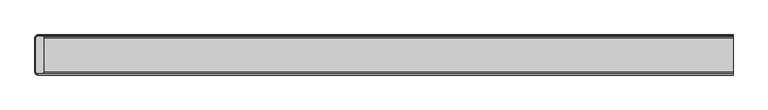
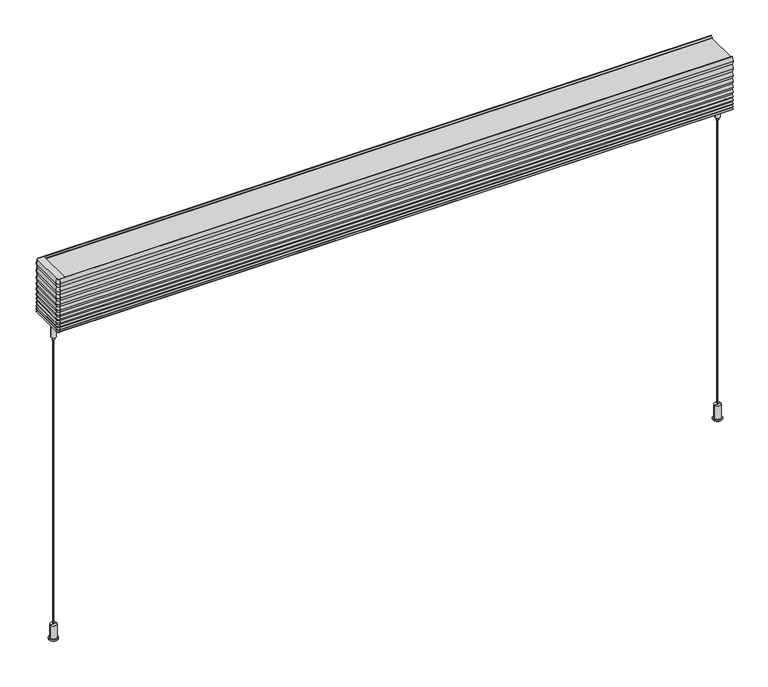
"""IFC4 building model written with IfcOpenShell, lengths in millimetres: light fixture geometry, Lighting-Pendant-Betacalco-Bellows-Straight : BLLC-DT1-SL04-LPF020-CR80-CTA40-DD1-FA01."""

from ifc_helpers import new_model, si_unit, point, frame, frame_2d, origin, place, context, project, spatial, polyline, circle_curve, trimmed, segment, composite_curve, outline, extrude, source, transform, mapped, element, save
from ifc_brep_helpers import plane_surface, cylinder_surface, revolved_surface, advanced_brep


def light_fixture_9107d4ee(model_context):
    return source(origin(), model_context, "Body", "SolidModel", [
        advanced_brep(
        [(-609.6, -35.1474913, 611.632), (-609.6, -33.3694913, 609.6), (-609.6, 33.3694913, 609.6), (-609.6, 35.1474913, 611.632), (-609.6, 33.3694913, 613.664), (-609.6, 35.1474913, 616.204), (-609.6, 33.3694913, 618.744), (-609.6, 35.1474913, 621.792), (-609.6, 33.3694913, 624.84), (-609.6, 35.1474913, 628.396), (-609.6, 33.3694913, 631.952), (-609.6, 35.1474913, 635.762), (-609.6, 33.3694913, 639.572), (-609.6, 35.11885, 644.0703509), (-609.6, 33.3966915, 648.6460566), (-609.6, 35.1239968, 653.7288728), (-609.6, 33.3919128, 658.8119386), (-609.6, 35.1278878, 664.402389), (-609.6, 33.3882749, 669.9929656), (-609.6, 35.1308966, 676.091104), (-609.6, 33.3848944, 682.1911894), (-609.6, 35.1351705, 689.3067168), (-609.6, 33.3815995, 696.4195673), (-609.6, 35.1359826, 703.786321), (-609.6, 33.3694913, 711.2), (-609.6, 32.6229178, 711.2), (-609.6, 32.6229178, 709.8332722), (-609.6, -32.6229178, 709.8332722), (-609.6, -32.6229178, 711.2), (-609.6, -33.3694913, 711.2), (-609.6, -35.1359826, 703.786321), (-609.6, -33.3815995, 696.4195673), (-609.6, -35.1351705, 689.3067168), (-609.6, -33.3848944, 682.1911894), (-609.6, -35.1308966, 676.091104), (-609.6, -33.3882749, 669.9929656), (-609.6, -35.1278878, 664.402389), (-609.6, -33.3919128, 658.8119386), (-609.6, -35.1239968, 653.7288728), (-609.6, -33.3966915, 648.6460566), (-609.6, -35.11885, 644.0703509), (-609.6, -33.3694913, 639.572), (-609.6, -35.1474913, 635.762), (-609.6, -33.3694913, 631.952), (-609.6, -35.1474913, 628.396), (-609.6, -33.3694913, 624.84), (-609.6, -35.1474913, 621.792), (-609.6, -33.3694913, 618.744), (-609.6, -35.1474913, 616.204), (-609.6, -33.3694913, 613.664), (-614.791, -29.9564913, 611.632), (-613.013, -29.9564913, 609.6), (-613.013, 29.9564913, 609.6), (-613.013, -29.9564913, 711.2), (-600.7807007, -32.5154703, 711.2), (-599.6222216, -31.4000598, 711.2), (-599.6222216, 31.4000598, 711.2), (-600.7807007, 32.5154703, 711.2), (-613.013, 29.9564913, 711.2), (-614.7794913, -29.9564913, 703.786321), (-613.0251082, -29.9564913, 696.4195673), (-614.7786792, -29.9564913, 689.3067168), (-613.0284031, -29.9564913, 682.1911894), (-614.7744054, -29.9564913, 676.091104), (-613.0317837, -29.9564913, 669.9929656), (-614.7713965, -29.9564913, 664.402389), (-613.0354215, -29.9564913, 658.8119386), (-614.7675055, -29.9564913, 653.7288728), (-613.0402002, -29.9564913, 648.6460566), (-614.7623587, -29.9564913, 644.0703509), (-613.013, -29.9564913, 639.572), (-614.791, -29.9564913, 635.762), (-613.013, -29.9564913, 631.952), (-614.791, -29.9564913, 628.396), (-613.013, -29.9564913, 624.84), (-614.791, -29.9564913, 621.792), (-613.013, -29.9564913, 618.744), (-614.791, -29.9564913, 616.204), (-613.013, -29.9564913, 613.664), (-614.791, 29.9564913, 611.632), (-614.7794913, 29.9564913, 703.786321), (-613.0251082, 29.9564913, 696.4195673), (-614.7786792, 29.9564913, 689.3067168), (-613.0284031, 29.9564913, 682.1911894), (-614.7744054, 29.9564913, 676.091104), (-613.0317837, 29.9564913, 669.9929656), (-614.7713965, 29.9564913, 664.402389), (-613.0354215, 29.9564913, 658.8119386), (-614.7675055, 29.9564913, 653.7288728), (-613.0402002, 29.9564913, 648.6460566), (-614.7623587, 29.9564913, 644.0703509), (-613.013, 29.9564913, 639.572), (-614.791, 29.9564913, 635.762), (-613.013, 29.9564913, 631.952), (-614.791, 29.9564913, 628.396), (-613.013, 29.9564913, 624.84), (-614.791, 29.9564913, 621.792), (-613.013, 29.9564913, 618.744), (-614.791, 29.9564913, 616.204), (-613.013, 29.9564913, 613.664), (-599.6222216, 31.4000598, 709.8332722), (-599.6222216, -31.4000598, 709.8332722), (-600.7807007, -32.5154703, 709.8332722), (-600.7807007, 32.5154703, 709.8332722)],
        [
            (0, 1),
            (1, 2),
            (2, 3),
            (3, 4),
            (4, 5),
            (5, 6),
            (6, 7),
            (7, 8),
            (8, 9),
            (9, 10),
            (10, 11),
            (11, 12),
            (12, 13),
            (13, 14),
            (14, 15),
            (15, 16),
            (16, 17),
            (17, 18),
            (18, 19),
            (19, 20),
            (20, 21),
            (21, 22),
            (22, 23),
            (23, 24),
            (24, 25),
            (25, 26),
            (26, 27),
            (27, 28),
            (28, 29),
            (29, 30),
            (30, 31),
            (31, 32),
            (32, 33),
            (33, 34),
            (34, 35),
            (35, 36),
            (36, 37),
            (37, 38),
            (38, 39),
            (39, 40),
            (40, 41),
            (41, 42),
            (42, 43),
            (43, 44),
            (44, 45),
            (45, 46),
            (46, 47),
            (47, 48),
            (48, 49),
            (49, 0),
            (0, 50, circle_curve(frame((-609.6, -29.9564913, 611.632), z_axis=(0.0, 0.0, -1.0), x_axis=(0.0, -1.0, 0.0)), 5.191)),
            (50, 51),
            (51, 1, circle_curve(frame((-609.6, -29.9564913, 609.6), z_axis=(0.0, 0.0, 1.0), x_axis=(0.0, -1.0, 0.0)), 3.413)),
            (51, 52),
            (52, 2, circle_curve(frame((-609.6, 29.9564913, 609.6), z_axis=(0.0, 0.0, -1.0), x_axis=(-1.0, 0.0, 0.0)), 3.413)),
            (53, 29, circle_curve(frame((-609.6, -29.9564913, 711.2), z_axis=(0.0, 0.0, 1.0), x_axis=(0.0, -1.0, 0.0)), 3.413)),
            (28, 54),
            (54, 55),
            (55, 56),
            (56, 57),
            (57, 25),
            (24, 58, circle_curve(frame((-609.6, 29.9564913, 711.2), z_axis=(0.0, 0.0, 1.0), x_axis=(-1.0, 0.0, 0.0)), 3.413)),
            (58, 53),
            (53, 59),
            (59, 30, circle_curve(frame((-609.6, -29.9564913, 703.786321), z_axis=(0.0, 0.0, 1.0), x_axis=(0.0, -1.0, 0.0)), 5.1794913)),
            (59, 60),
            (60, 31, circle_curve(frame((-609.6, -29.9564913, 696.4195673), z_axis=(0.0, 0.0, 1.0), x_axis=(0.0, -1.0, 0.0)), 3.4251082)),
            (60, 61),
            (61, 32, circle_curve(frame((-609.6, -29.9564913, 689.3067168), z_axis=(0.0, 0.0, 1.0), x_axis=(0.0, -1.0, 0.0)), 5.1786792)),
            (61, 62),
            (62, 33, circle_curve(frame((-609.6, -29.9564913, 682.1911894), z_axis=(0.0, 0.0, 1.0), x_axis=(0.0, -1.0, 0.0)), 3.4284031)),
            (62, 63),
            (63, 34, circle_curve(frame((-609.6, -29.9564913, 676.091104), z_axis=(0.0, 0.0, 1.0), x_axis=(0.0, -1.0, 0.0)), 5.1744054)),
            (63, 64),
            (64, 35, circle_curve(frame((-609.6, -29.9564913, 669.9929656), z_axis=(0.0, 0.0, 1.0), x_axis=(0.0, -1.0, 0.0)), 3.4317837)),
            (64, 65),
            (65, 36, circle_curve(frame((-609.6, -29.9564913, 664.402389), z_axis=(0.0, 0.0, 1.0), x_axis=(0.0, -1.0, 0.0)), 5.1713965)),
            (65, 66),
            (66, 37, circle_curve(frame((-609.6, -29.9564913, 658.8119386), z_axis=(0.0, 0.0, 1.0), x_axis=(0.0, -1.0, 0.0)), 3.4354215)),
            (66, 67),
            (67, 38, circle_curve(frame((-609.6, -29.9564913, 653.7288728), z_axis=(0.0, 0.0, 1.0), x_axis=(0.0, -1.0, 0.0)), 5.1675055)),
            (67, 68),
            (68, 39, circle_curve(frame((-609.6, -29.9564913, 648.6460566), z_axis=(0.0, 0.0, 1.0), x_axis=(0.0, -1.0, 0.0)), 3.4402002)),
            (68, 69),
            (69, 40, circle_curve(frame((-609.6, -29.9564913, 644.0703509), z_axis=(0.0, 0.0, 1.0), x_axis=(0.0, -1.0, 0.0)), 5.1623587)),
            (69, 70),
            (70, 41, circle_curve(frame((-609.6, -29.9564913, 639.572), z_axis=(0.0, 0.0, 1.0), x_axis=(0.0, -1.0, 0.0)), 3.413)),
            (70, 71),
            (71, 42, circle_curve(frame((-609.6, -29.9564913, 635.762), z_axis=(0.0, 0.0, 1.0), x_axis=(0.0, -1.0, 0.0)), 5.191)),
            (71, 72),
            (72, 43, circle_curve(frame((-609.6, -29.9564913, 631.952), z_axis=(0.0, 0.0, 1.0), x_axis=(0.0, -1.0, 0.0)), 3.413)),
            (72, 73),
            (73, 44, circle_curve(frame((-609.6, -29.9564913, 628.396), z_axis=(0.0, 0.0, 1.0), x_axis=(0.0, -1.0, 0.0)), 5.191)),
            (73, 74),
            (74, 45, circle_curve(frame((-609.6, -29.9564913, 624.84), z_axis=(0.0, 0.0, 1.0), x_axis=(0.0, -1.0, 0.0)), 3.413)),
            (74, 75),
            (75, 46, circle_curve(frame((-609.6, -29.9564913, 621.792), z_axis=(0.0, 0.0, 1.0), x_axis=(0.0, -1.0, 0.0)), 5.191)),
            (75, 76),
            (76, 47, circle_curve(frame((-609.6, -29.9564913, 618.744), z_axis=(0.0, 0.0, 1.0), x_axis=(0.0, -1.0, 0.0)), 3.413)),
            (76, 77),
            (77, 48, circle_curve(frame((-609.6, -29.9564913, 616.204), z_axis=(0.0, 0.0, 1.0), x_axis=(0.0, -1.0, 0.0)), 5.191)),
            (77, 78),
            (78, 49, circle_curve(frame((-609.6, -29.9564913, 613.664), z_axis=(0.0, 0.0, 1.0), x_axis=(0.0, -1.0, 0.0)), 3.413)),
            (78, 50),
            (50, 79),
            (79, 52),
            (58, 80),
            (80, 59),
            (80, 81),
            (81, 60),
            (81, 82),
            (82, 61),
            (82, 83),
            (83, 62),
            (83, 84),
            (84, 63),
            (84, 85),
            (85, 64),
            (85, 86),
            (86, 65),
            (86, 87),
            (87, 66),
            (87, 88),
            (88, 67),
            (88, 89),
            (89, 68),
            (89, 90),
            (90, 69),
            (90, 91),
            (91, 70),
            (91, 92),
            (92, 71),
            (92, 93),
            (93, 72),
            (93, 94),
            (94, 73),
            (94, 95),
            (95, 74),
            (95, 96),
            (96, 75),
            (96, 97),
            (97, 76),
            (97, 98),
            (98, 77),
            (98, 99),
            (99, 78),
            (99, 79),
            (100, 101),
            (101, 102),
            (102, 27),
            (26, 103),
            (103, 100),
            (56, 100),
            (103, 57),
            (102, 54),
            (101, 55),
            (79, 3, circle_curve(frame((-609.6, 29.9564913, 611.632), z_axis=(0.0, 0.0, -1.0), x_axis=(-1.0, 0.0, 0.0)), 5.191)),
            (23, 80, circle_curve(frame((-609.6, 29.9564913, 703.786321), z_axis=(0.0, 0.0, 1.0), x_axis=(-1.0, 0.0, 0.0)), 5.1794913)),
            (22, 81, circle_curve(frame((-609.6, 29.9564913, 696.4195673), z_axis=(0.0, 0.0, 1.0), x_axis=(-1.0, 0.0, 0.0)), 3.4251082)),
            (21, 82, circle_curve(frame((-609.6, 29.9564913, 689.3067168), z_axis=(0.0, 0.0, 1.0), x_axis=(-1.0, 0.0, 0.0)), 5.1786792)),
            (20, 83, circle_curve(frame((-609.6, 29.9564913, 682.1911894), z_axis=(0.0, 0.0, 1.0), x_axis=(-1.0, 0.0, 0.0)), 3.4284031)),
            (19, 84, circle_curve(frame((-609.6, 29.9564913, 676.091104), z_axis=(0.0, 0.0, 1.0), x_axis=(-1.0, 0.0, 0.0)), 5.1744054)),
            (18, 85, circle_curve(frame((-609.6, 29.9564913, 669.9929656), z_axis=(0.0, 0.0, 1.0), x_axis=(-1.0, 0.0, 0.0)), 3.4317837)),
            (17, 86, circle_curve(frame((-609.6, 29.9564913, 664.402389), z_axis=(0.0, 0.0, 1.0), x_axis=(-1.0, 0.0, 0.0)), 5.1713965)),
            (16, 87, circle_curve(frame((-609.6, 29.9564913, 658.8119386), z_axis=(0.0, 0.0, 1.0), x_axis=(-1.0, 0.0, 0.0)), 3.4354215)),
            (15, 88, circle_curve(frame((-609.6, 29.9564913, 653.7288728), z_axis=(0.0, 0.0, 1.0), x_axis=(-1.0, 0.0, 0.0)), 5.1675055)),
            (14, 89, circle_curve(frame((-609.6, 29.9564913, 648.6460566), z_axis=(0.0, 0.0, 1.0), x_axis=(-1.0, 0.0, 0.0)), 3.4402002)),
            (13, 90, circle_curve(frame((-609.6, 29.9564913, 644.0703509), z_axis=(0.0, 0.0, 1.0), x_axis=(-1.0, 0.0, 0.0)), 5.1623587)),
            (12, 91, circle_curve(frame((-609.6, 29.9564913, 639.572), z_axis=(0.0, 0.0, 1.0), x_axis=(-1.0, 0.0, 0.0)), 3.413)),
            (11, 92, circle_curve(frame((-609.6, 29.9564913, 635.762), z_axis=(0.0, 0.0, 1.0), x_axis=(-1.0, 0.0, 0.0)), 5.191)),
            (10, 93, circle_curve(frame((-609.6, 29.9564913, 631.952), z_axis=(0.0, 0.0, 1.0), x_axis=(-1.0, 0.0, 0.0)), 3.413)),
            (9, 94, circle_curve(frame((-609.6, 29.9564913, 628.396), z_axis=(0.0, 0.0, 1.0), x_axis=(-1.0, 0.0, 0.0)), 5.191)),
            (8, 95, circle_curve(frame((-609.6, 29.9564913, 624.84), z_axis=(0.0, 0.0, 1.0), x_axis=(-1.0, 0.0, 0.0)), 3.413)),
            (7, 96, circle_curve(frame((-609.6, 29.9564913, 621.792), z_axis=(0.0, 0.0, 1.0), x_axis=(-1.0, 0.0, 0.0)), 5.191)),
            (6, 97, circle_curve(frame((-609.6, 29.9564913, 618.744), z_axis=(0.0, 0.0, 1.0), x_axis=(-1.0, 0.0, 0.0)), 3.413)),
            (5, 98, circle_curve(frame((-609.6, 29.9564913, 616.204), z_axis=(0.0, 0.0, 1.0), x_axis=(-1.0, 0.0, 0.0)), 5.191)),
            (4, 99, circle_curve(frame((-609.6, 29.9564913, 613.664), z_axis=(0.0, 0.0, 1.0), x_axis=(-1.0, 0.0, 0.0)), 3.413)),
        ],
        [
            plane_surface(frame((-609.6, -35.3935941, 609.6), z_axis=(1.0, 0.0, 0.0), x_axis=(0.0, 0.0, 1.0))),
            revolved_surface(polyline([(-609.6, -35.1474913, 611.632), (-609.6, -33.3694913, 609.6)]), (-609.6, -29.9564913, 609.6), (0.0, 0.0, -1.0)),
            plane_surface(frame((-609.6, -29.9564913, 609.6), z_axis=(0.0, 0.0, -1.0), x_axis=(0.0, -1.0, 0.0))),
            plane_surface(frame((-609.6, -29.9564913, 711.2), z_axis=(0.0, 0.0, 1.0), x_axis=(0.0, -1.0, 0.0))),
            revolved_surface(polyline([(-609.6, -33.3694913, 711.2), (-609.6, -35.1359826, 703.786321)]), (-609.6, -29.9564913, 609.6), (0.0, 0.0, -1.0)),
            revolved_surface(polyline([(-609.6, -35.1359826, 703.786321), (-609.6, -33.3815995, 696.4195673)]), (-609.6, -29.9564913, 609.6), (0.0, 0.0, -1.0)),
            revolved_surface(polyline([(-609.6, -33.3815995, 696.4195673), (-609.6, -35.1351705, 689.3067168)]), (-609.6, -29.9564913, 609.6), (0.0, 0.0, -1.0)),
            revolved_surface(polyline([(-609.6, -35.1351705, 689.3067168), (-609.6, -33.3848944, 682.1911894)]), (-609.6, -29.9564913, 609.6), (0.0, 0.0, -1.0)),
            revolved_surface(polyline([(-609.6, -33.3848944, 682.1911894), (-609.6, -35.1308966, 676.091104)]), (-609.6, -29.9564913, 609.6), (0.0, 0.0, -1.0)),
            revolved_surface(polyline([(-609.6, -35.1308966, 676.091104), (-609.6, -33.3882749, 669.9929656)]), (-609.6, -29.9564913, 609.6), (0.0, 0.0, -1.0)),
            revolved_surface(polyline([(-609.6, -33.3882749, 669.9929656), (-609.6, -35.1278878, 664.402389)]), (-609.6, -29.9564913, 609.6), (0.0, 0.0, -1.0)),
            revolved_surface(polyline([(-609.6, -35.1278878, 664.402389), (-609.6, -33.3919128, 658.8119386)]), (-609.6, -29.9564913, 609.6), (0.0, 0.0, -1.0)),
            revolved_surface(polyline([(-609.6, -33.3919128, 658.8119386), (-609.6, -35.1239968, 653.7288728)]), (-609.6, -29.9564913, 609.6), (0.0, 0.0, -1.0)),
            revolved_surface(polyline([(-609.6, -35.1239968, 653.7288728), (-609.6, -33.3966915, 648.6460566)]), (-609.6, -29.9564913, 609.6), (0.0, 0.0, -1.0)),
            revolved_surface(polyline([(-609.6, -33.3966915, 648.6460566), (-609.6, -35.11885, 644.0703509)]), (-609.6, -29.9564913, 609.6), (0.0, 0.0, -1.0)),
            revolved_surface(polyline([(-609.6, -35.11885, 644.0703509), (-609.6, -33.3694913, 639.572)]), (-609.6, -29.9564913, 609.6), (0.0, 0.0, -1.0)),
            revolved_surface(polyline([(-609.6, -33.3694913, 639.572), (-609.6, -35.1474913, 635.762)]), (-609.6, -29.9564913, 609.6), (0.0, 0.0, -1.0)),
            revolved_surface(polyline([(-609.6, -35.1474913, 635.762), (-609.6, -33.3694913, 631.952)]), (-609.6, -29.9564913, 609.6), (0.0, 0.0, -1.0)),
            revolved_surface(polyline([(-609.6, -33.3694913, 631.952), (-609.6, -35.1474913, 628.396)]), (-609.6, -29.9564913, 609.6), (0.0, 0.0, -1.0)),
            revolved_surface(polyline([(-609.6, -35.1474913, 628.396), (-609.6, -33.3694913, 624.84)]), (-609.6, -29.9564913, 609.6), (0.0, 0.0, -1.0)),
            revolved_surface(polyline([(-609.6, -33.3694913, 624.84), (-609.6, -35.1474913, 621.792)]), (-609.6, -29.9564913, 609.6), (0.0, 0.0, -1.0)),
            revolved_surface(polyline([(-609.6, -35.1474913, 621.792), (-609.6, -33.3694913, 618.744)]), (-609.6, -29.9564913, 609.6), (0.0, 0.0, -1.0)),
            revolved_surface(polyline([(-609.6, -33.3694913, 618.744), (-609.6, -35.1474913, 616.204)]), (-609.6, -29.9564913, 609.6), (0.0, 0.0, -1.0)),
            revolved_surface(polyline([(-609.6, -35.1474913, 616.204), (-609.6, -33.3694913, 613.664)]), (-609.6, -29.9564913, 609.6), (0.0, 0.0, -1.0)),
            revolved_surface(polyline([(-609.6, -33.3694913, 613.664), (-609.6, -35.1474913, 611.632)]), (-609.6, -29.9564913, 609.6), (0.0, 0.0, -1.0)),
            plane_surface(frame((-614.791, -29.9564913, 611.632), z_axis=(-0.7525766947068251, 0.0, -0.6585046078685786), x_axis=(0.0, 1.0, 0.0))),
            plane_surface(frame((-613.013, -29.9564913, 711.2), z_axis=(-0.9727668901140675, 0.0, 0.23178562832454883), x_axis=(0.0, 1.0, 0.0))),
            plane_surface(frame((-614.7794913, -29.9564913, 703.786321), z_axis=(-0.9727944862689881, 0.0, -0.23166978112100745), x_axis=(0.0, 1.0, 0.0))),
            plane_surface(frame((-613.0251082, -29.9564913, 696.4195673), z_axis=(-0.9709287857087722, 0.0, 0.23936852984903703), x_axis=(0.0, 1.0, 0.0))),
            plane_surface(frame((-614.7786792, -29.9564913, 689.3067168), z_axis=(-0.9710540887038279, 0.0, -0.23885970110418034), x_axis=(0.0, 1.0, 0.0))),
            plane_surface(frame((-613.0284031, -29.9564913, 682.1911894), z_axis=(-0.9613939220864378, 0.0, 0.27517581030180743), x_axis=(0.0, 1.0, 0.0))),
            plane_surface(frame((-614.7744054, -29.9564913, 676.091104), z_axis=(-0.9615116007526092, 0.0, -0.2747643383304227), x_axis=(0.0, 1.0, 0.0))),
            plane_surface(frame((-613.0317837, -29.9564913, 669.9929656), z_axis=(-0.9548411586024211, 0.0, 0.29711674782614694), x_axis=(0.0, 1.0, 0.0))),
            plane_surface(frame((-614.7713965, -29.9564913, 664.402389), z_axis=(-0.9550153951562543, 0.0, -0.29655622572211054), x_axis=(0.0, 1.0, 0.0))),
            plane_surface(frame((-613.0354215, -29.9564913, 658.8119386), z_axis=(-0.9465545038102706, 0.0, 0.3225439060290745), x_axis=(0.0, 1.0, 0.0))),
            plane_surface(frame((-614.7675055, -29.9564913, 653.7288728), z_axis=(-0.9468211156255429, 0.0, -0.3217604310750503), x_axis=(0.0, 1.0, 0.0))),
            plane_surface(frame((-613.0402002, -29.9564913, 648.6460566), z_axis=(-0.9359069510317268, 0.0, 0.3522473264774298), x_axis=(0.0, 1.0, 0.0))),
            plane_surface(frame((-614.7623587, -29.9564913, 644.0703509), z_axis=(-0.9320046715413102, 0.0, -0.36244626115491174), x_axis=(0.0, 1.0, 0.0))),
            plane_surface(frame((-613.013, -29.9564913, 639.572), z_axis=(-0.9061831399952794, 0.0, 0.42288546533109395), x_axis=(0.0, 1.0, 0.0))),
            plane_surface(frame((-614.791, -29.9564913, 635.762), z_axis=(-0.9061831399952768, 0.0, -0.42288546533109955), x_axis=(0.0, 1.0, 0.0))),
            plane_surface(frame((-613.013, -29.9564913, 631.952), z_axis=(-0.8944271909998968, 0.0, 0.4472135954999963), x_axis=(0.0, 1.0, 0.0))),
            plane_surface(frame((-614.791, -29.9564913, 628.396), z_axis=(-0.8944271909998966, 0.0, -0.44721359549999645), x_axis=(0.0, 1.0, 0.0))),
            plane_surface(frame((-613.013, -29.9564913, 624.84), z_axis=(-0.8637789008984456, 0.0, 0.5038710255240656), x_axis=(0.0, 1.0, 0.0))),
            plane_surface(frame((-614.791, -29.9564913, 621.792), z_axis=(-0.8637789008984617, 0.0, -0.503871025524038), x_axis=(0.0, 1.0, 0.0))),
            plane_surface(frame((-613.013, -29.9564913, 618.744), z_axis=(-0.8192319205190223, 0.0, 0.5734623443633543), x_axis=(0.0, 1.0, 0.0))),
            plane_surface(frame((-614.791, -29.9564913, 616.204), z_axis=(-0.8192319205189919, 0.0, -0.5734623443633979), x_axis=(0.0, 1.0, 0.0))),
            plane_surface(frame((-613.013, -29.9564913, 613.664), z_axis=(-0.7525766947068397, 0.0, 0.6585046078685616), x_axis=(0.0, 1.0, 0.0))),
            plane_surface(frame((-599.6222216, 31.4000598, 709.8332722), z_axis=(0.0, 0.0, -1.0), x_axis=(0.7203705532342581, -0.6935894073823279, 0.0))),
            plane_surface(frame((-599.6222216, 31.4000598, 711.2), z_axis=(0.6935894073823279, 0.7203705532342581, 0.0), x_axis=(0.0, 0.0, -1.0))),
            plane_surface(frame((-600.7807007, 32.5154703, 711.2), z_axis=(0.012182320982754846, 0.9999257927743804, 0.0), x_axis=(0.0, 0.0, -1.0))),
            plane_surface(frame((-609.6, -32.6229178, 711.2), z_axis=(0.012182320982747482, -0.9999257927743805, 0.0), x_axis=(0.0, 0.0, -1.0))),
            plane_surface(frame((-600.7807007, -32.5154703, 711.2), z_axis=(0.6935894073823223, -0.7203705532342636, 0.0), x_axis=(0.0, 0.0, -1.0))),
            plane_surface(frame((-599.6222216, -31.4000598, 711.2), z_axis=(1.0, 0.0, 0.0), x_axis=(0.0, 0.0, -1.0))),
            revolved_surface(polyline([(-614.791, 29.9564913, 611.632), (-613.013, 29.9564913, 609.6)]), (-609.6, 29.9564913, 609.6), (0.0, 0.0, -1.0)),
            revolved_surface(polyline([(-613.013, 29.9564913, 711.2), (-614.7794913, 29.9564913, 703.786321)]), (-609.6, 29.9564913, 609.6), (0.0, 0.0, -1.0)),
            revolved_surface(polyline([(-614.7794913, 29.9564913, 703.786321), (-613.0251082, 29.9564913, 696.4195673)]), (-609.6, 29.9564913, 609.6), (0.0, 0.0, -1.0)),
            revolved_surface(polyline([(-613.0251082, 29.9564913, 696.4195673), (-614.7786792, 29.9564913, 689.3067168)]), (-609.6, 29.9564913, 609.6), (0.0, 0.0, -1.0)),
            revolved_surface(polyline([(-614.7786792, 29.9564913, 689.3067168), (-613.0284031, 29.9564913, 682.1911894)]), (-609.6, 29.9564913, 609.6), (0.0, 0.0, -1.0)),
            revolved_surface(polyline([(-613.0284031, 29.9564913, 682.1911894), (-614.7744054, 29.9564913, 676.091104)]), (-609.6, 29.9564913, 609.6), (0.0, 0.0, -1.0)),
            revolved_surface(polyline([(-614.7744054, 29.9564913, 676.091104), (-613.0317837, 29.9564913, 669.9929656)]), (-609.6, 29.9564913, 609.6), (0.0, 0.0, -1.0)),
            revolved_surface(polyline([(-613.0317837, 29.9564913, 669.9929656), (-614.7713965, 29.9564913, 664.402389)]), (-609.6, 29.9564913, 609.6), (0.0, 0.0, -1.0)),
            revolved_surface(polyline([(-614.7713965, 29.9564913, 664.402389), (-613.0354215, 29.9564913, 658.8119386)]), (-609.6, 29.9564913, 609.6), (0.0, 0.0, -1.0)),
            revolved_surface(polyline([(-613.0354215, 29.9564913, 658.8119386), (-614.7675055, 29.9564913, 653.7288728)]), (-609.6, 29.9564913, 609.6), (0.0, 0.0, -1.0)),
            revolved_surface(polyline([(-614.7675055, 29.9564913, 653.7288728), (-613.0402002, 29.9564913, 648.6460566)]), (-609.6, 29.9564913, 609.6), (0.0, 0.0, -1.0)),
            revolved_surface(polyline([(-613.0402002, 29.9564913, 648.6460566), (-614.7623587, 29.9564913, 644.0703509)]), (-609.6, 29.9564913, 609.6), (0.0, 0.0, -1.0)),
            revolved_surface(polyline([(-614.7623587, 29.9564913, 644.0703509), (-613.013, 29.9564913, 639.572)]), (-609.6, 29.9564913, 609.6), (0.0, 0.0, -1.0)),
            revolved_surface(polyline([(-613.013, 29.9564913, 639.572), (-614.791, 29.9564913, 635.762)]), (-609.6, 29.9564913, 609.6), (0.0, 0.0, -1.0)),
            revolved_surface(polyline([(-614.791, 29.9564913, 635.762), (-613.013, 29.9564913, 631.952)]), (-609.6, 29.9564913, 609.6), (0.0, 0.0, -1.0)),
            revolved_surface(polyline([(-613.013, 29.9564913, 631.952), (-614.791, 29.9564913, 628.396)]), (-609.6, 29.9564913, 609.6), (0.0, 0.0, -1.0)),
            revolved_surface(polyline([(-614.791, 29.9564913, 628.396), (-613.013, 29.9564913, 624.84)]), (-609.6, 29.9564913, 609.6), (0.0, 0.0, -1.0)),
            revolved_surface(polyline([(-613.013, 29.9564913, 624.84), (-614.791, 29.9564913, 621.792)]), (-609.6, 29.9564913, 609.6), (0.0, 0.0, -1.0)),
            revolved_surface(polyline([(-614.791, 29.9564913, 621.792), (-613.013, 29.9564913, 618.744)]), (-609.6, 29.9564913, 609.6), (0.0, 0.0, -1.0)),
            revolved_surface(polyline([(-613.013, 29.9564913, 618.744), (-614.791, 29.9564913, 616.204)]), (-609.6, 29.9564913, 609.6), (0.0, 0.0, -1.0)),
            revolved_surface(polyline([(-614.791, 29.9564913, 616.204), (-613.013, 29.9564913, 613.664)]), (-609.6, 29.9564913, 609.6), (0.0, 0.0, -1.0)),
            revolved_surface(polyline([(-613.013, 29.9564913, 613.664), (-614.791, 29.9564913, 611.632)]), (-609.6, 29.9564913, 609.6), (0.0, 0.0, -1.0)),
        ],
        [
            (0, [[1, 2, 3, 4, 5, 6, 7, 8, 9, 10, 11, 12, 13, 14, 15, 16, 17, 18, 19, 20, 21, 22, 23, 24, 25, 26, 27, 28, 29, 30, 31, 32, 33, 34, 35, 36, 37, 38, 39, 40, 41, 42, 43, 44, 45, 46, 47, 48, 49, 50]]),
            (1, [[-1, 51, 52, 53]]),
            (2, [[-2, -53, 54, 55]]),
            (3, [[56, -29, 57, 58, 59, 60, 61, -25, 62, 63]]),
            (4, [[-30, -56, 64, 65]]),
            (5, [[-31, -65, 66, 67]]),
            (6, [[-32, -67, 68, 69]]),
            (7, [[-33, -69, 70, 71]]),
            (8, [[-34, -71, 72, 73]]),
            (9, [[-35, -73, 74, 75]]),
            (10, [[-36, -75, 76, 77]]),
            (11, [[-37, -77, 78, 79]]),
            (12, [[-38, -79, 80, 81]]),
            (13, [[-39, -81, 82, 83]]),
            (14, [[-40, -83, 84, 85]]),
            (15, [[-41, -85, 86, 87]]),
            (16, [[-42, -87, 88, 89]]),
            (17, [[-43, -89, 90, 91]]),
            (18, [[-44, -91, 92, 93]]),
            (19, [[-45, -93, 94, 95]]),
            (20, [[-46, -95, 96, 97]]),
            (21, [[-47, -97, 98, 99]]),
            (22, [[-48, -99, 100, 101]]),
            (23, [[-49, -101, 102, 103]]),
            (24, [[-50, -103, 104, -51]]),
            (25, [[-52, 105, 106, -54]]),
            (26, [[-63, 107, 108, -64]]),
            (27, [[-66, -108, 109, 110]]),
            (28, [[-68, -110, 111, 112]]),
            (29, [[-70, -112, 113, 114]]),
            (30, [[-72, -114, 115, 116]]),
            (31, [[-74, -116, 117, 118]]),
            (32, [[-76, -118, 119, 120]]),
            (33, [[-78, -120, 121, 122]]),
            (34, [[-80, -122, 123, 124]]),
            (35, [[-82, -124, 125, 126]]),
            (36, [[-84, -126, 127, 128]]),
            (37, [[-86, -128, 129, 130]]),
            (38, [[-88, -130, 131, 132]]),
            (39, [[-90, -132, 133, 134]]),
            (40, [[-92, -134, 135, 136]]),
            (41, [[-94, -136, 137, 138]]),
            (42, [[-96, -138, 139, 140]]),
            (43, [[-98, -140, 141, 142]]),
            (44, [[-100, -142, 143, 144]]),
            (45, [[-102, -144, 145, 146]]),
            (46, [[-104, -146, 147, -105]]),
            (47, [[148, 149, 150, -27, 151, 152]]),
            (48, [[-60, 153, -152, 154]]),
            (49, [[-61, -154, -151, -26]]),
            (50, [[-57, -28, -150, 155]]),
            (51, [[-58, -155, -149, 156]]),
            (52, [[-59, -156, -148, -153]]),
            (53, [[-55, -106, 157, -3]]),
            (54, [[-62, -24, 158, -107]]),
            (55, [[-109, -158, -23, 159]]),
            (56, [[-111, -159, -22, 160]]),
            (57, [[-113, -160, -21, 161]]),
            (58, [[-115, -161, -20, 162]]),
            (59, [[-117, -162, -19, 163]]),
            (60, [[-119, -163, -18, 164]]),
            (61, [[-121, -164, -17, 165]]),
            (62, [[-123, -165, -16, 166]]),
            (63, [[-125, -166, -15, 167]]),
            (64, [[-127, -167, -14, 168]]),
            (65, [[-129, -168, -13, 169]]),
            (66, [[-131, -169, -12, 170]]),
            (67, [[-133, -170, -11, 171]]),
            (68, [[-135, -171, -10, 172]]),
            (69, [[-137, -172, -9, 173]]),
            (70, [[-139, -173, -8, 174]]),
            (71, [[-141, -174, -7, 175]]),
            (72, [[-143, -175, -6, 176]]),
            (73, [[-145, -176, -5, 177]]),
            (74, [[-147, -177, -4, -157]]),
        ],
    ),
        extrude(outline(composite_curve([segment(trimmed(circle_curve(frame_2d((9.7634085, 617.6899758)), 3.0000001), [point((12.4477579, 616.3504727))], [point((10.5526102, 614.7956432))], False, "CARTESIAN"), True, "CONTINUOUS"), segment(trimmed(circle_curve(frame_2d((0.0, 653.4964752)), 40.113738), [point((10.5526102, 614.7956432))], [point((-10.5526102, 614.7956432))], False, "CARTESIAN"), True, "CONTINUOUS"), segment(trimmed(circle_curve(frame_2d((-9.7634085, 617.6899758)), 3.0000001), [point((-10.5526102, 614.7956432))], [point((-12.4477579, 616.3504727))], False, "CARTESIAN"), True, "CONTINUOUS"), segment(polyline([(-12.4477579, 616.3504727), (-13.0732308, 617.6039135), (13.0732308, 617.6039135), (12.4477579, 616.3504727)]), True, "CONTINUOUS")], self_intersect=False)), frame((-575.31, 0.0, 0.0), z_axis=(1.0, 0.0, 0.0), x_axis=(0.0, 1.0, 0.0)), (0.0, 0.0, 1.0), 1150.62),
        extrude(outline(polyline([(609.6, 30.1625), (609.6, -30.1625), (593.725, -30.1625), (593.725, 30.1625), (609.6, 30.1625)])), frame((0.0, 0.0, 612.648), z_axis=(0.0, 0.0, 1.0), x_axis=(1.0, 0.0, 0.0)), (0.0, 0.0, 1.0), 1.524),
        advanced_brep(
        [(609.6625, 0.0, 0.0), (593.6625, 0.0, 0.0), (593.6625, 0.0, 2.05), (609.6625, 0.0, 2.05), (595.6625, 0.0, 2.05), (607.6625, 0.0, 2.05), (595.6625, 0.0, 27.4), (607.6625, 0.0, 27.4), (601.6625, 0.0, 27.4), (601.6625, 0.0, 0.0)],
        [
            (0, 1, circle_curve(frame((601.6625, 0.0, 0.0), z_axis=(0.0, 0.0, 1.0), x_axis=(-1.0, 0.0, 0.0)), 8.0)),
            (1, 2),
            (2, 3, circle_curve(frame((601.6625, 0.0, 2.05), z_axis=(0.0, 0.0, -1.0), x_axis=(-1.0, 0.0, 0.0)), 8.0)),
            (3, 0),
            (1, 0, circle_curve(frame((601.6625, 0.0, 0.0), z_axis=(0.0, 0.0, 1.0), x_axis=(-1.0, 0.0, 0.0)), 8.0)),
            (3, 2, circle_curve(frame((601.6625, 0.0, 2.05), z_axis=(0.0, 0.0, -1.0), x_axis=(-1.0, 0.0, 0.0)), 8.0)),
            (2, 4),
            (4, 5, circle_curve(frame((601.6625, 0.0, 2.05), z_axis=(0.0, 0.0, -1.0), x_axis=(-1.0, 0.0, 0.0)), 6.0)),
            (5, 3),
            (5, 4, circle_curve(frame((601.6625, 0.0, 2.05), z_axis=(0.0, 0.0, -1.0), x_axis=(-1.0, 0.0, 0.0)), 6.0)),
            (4, 6),
            (6, 7, circle_curve(frame((601.6625, 0.0, 27.4), z_axis=(0.0, 0.0, -1.0), x_axis=(-1.0, 0.0, 0.0)), 6.0)),
            (7, 5),
            (7, 6, circle_curve(frame((601.6625, 0.0, 27.4), z_axis=(0.0, 0.0, -1.0), x_axis=(-1.0, 0.0, 0.0)), 6.0)),
            (6, 8),
            (8, 7),
            (9, 1),
            (0, 9),
        ],
        [
            cylinder_surface(frame((601.6625, 0.0, 2366.7150031), z_axis=(0.0, 0.0, -1.0), x_axis=(-1.0, 0.0, 0.0)), 8.0),
            plane_surface(frame((601.6625, 0.0, 2.05), z_axis=(0.0, 0.0, 1.0), x_axis=(-1.0, 0.0, 0.0))),
            cylinder_surface(frame((601.6625, 0.0, 2366.7150031), z_axis=(0.0, 0.0, -1.0), x_axis=(-1.0, 0.0, 0.0)), 6.0),
            plane_surface(frame((601.6625, 0.0, 27.4), z_axis=(0.0, 0.0, 1.0), x_axis=(-1.0, 0.0, 0.0))),
            plane_surface(frame((601.6625, 0.0, 0.0), z_axis=(0.0, 0.0, -1.0), x_axis=(-1.0, 0.0, 0.0))),
        ],
        [
            (0, [[1, 2, 3, 4]]),
            (0, [[5, -4, 6, -2]]),
            (1, [[-3, 7, 8, 9]]),
            (1, [[-6, -9, 10, -7]]),
            (2, [[-8, 11, 12, 13]]),
            (2, [[-10, -13, 14, -11]]),
            (3, [[-12, 15, 16]]),
            (3, [[-14, -16, -15]]),
            (4, [[17, -1, 18]]),
            (4, [[-18, -5, -17]]),
        ],
    ),
        advanced_brep(
        [(602.4562476, 0.0, 27.4), (600.8687524, 0.0, 27.4), (600.8687524, 0.0, 572.93256), (602.4562476, 0.0, 572.93256), (601.6625, 0.0, 27.4), (601.6625, 0.0, 572.93256)],
        [
            (0, 1, circle_curve(frame((601.6625, 0.0, 27.4), z_axis=(0.0, 0.0, 1.0), x_axis=(-1.0, 0.0, 0.0)), 0.7937476)),
            (1, 2),
            (2, 3, circle_curve(frame((601.6625, 0.0, 572.93256), z_axis=(0.0, 0.0, -1.0), x_axis=(-1.0, 0.0, 0.0)), 0.7937476)),
            (3, 0),
            (1, 0, circle_curve(frame((601.6625, 0.0, 27.4), z_axis=(0.0, 0.0, 1.0), x_axis=(-1.0, 0.0, 0.0)), 0.7937476)),
            (3, 2, circle_curve(frame((601.6625, 0.0, 572.93256), z_axis=(0.0, 0.0, -1.0), x_axis=(-1.0, 0.0, 0.0)), 0.7937476)),
            (4, 1),
            (0, 4),
            (2, 5),
            (5, 3),
        ],
        [
            cylinder_surface(frame((601.6625, 0.0, 2366.7150031), z_axis=(0.0, 0.0, -1.0), x_axis=(-1.0, 0.0, 0.0)), 0.7937476),
            plane_surface(frame((601.6625, 0.0, 27.4), z_axis=(0.0, 0.0, -1.0), x_axis=(-1.0, 0.0, 0.0))),
            plane_surface(frame((601.6625, 0.0, 572.93256), z_axis=(0.0, 0.0, 1.0), x_axis=(-1.0, 0.0, 0.0))),
        ],
        [
            (0, [[1, 2, 3, 4]]),
            (0, [[5, -4, 6, -2]]),
            (1, [[7, -1, 8]]),
            (1, [[-8, -5, -7]]),
            (2, [[-3, 9, 10]]),
            (2, [[-6, -10, -9]]),
        ],
    ),
        advanced_brep(
        [(606.1329, 0.0, 578.64756), (597.1921, 0.0, 578.64756), (597.1921, 0.0, 612.648), (606.1329, 0.0, 612.648), (603.5929, 0.0, 578.64756), (599.7321, 0.0, 578.64756), (603.5929, 0.0, 572.93256), (599.7321, 0.0, 572.93256), (601.6625, 0.0, 572.93256), (601.6625, 0.0, 612.648)],
        [
            (0, 1, circle_curve(frame((601.6625, 0.0, 578.64756), z_axis=(0.0, 0.0, 1.0), x_axis=(-1.0, 0.0, 0.0)), 4.4704)),
            (1, 2),
            (2, 3, circle_curve(frame((601.6625, 0.0, 612.648), z_axis=(0.0, 0.0, -1.0), x_axis=(-1.0, 0.0, 0.0)), 4.4704)),
            (3, 0),
            (1, 0, circle_curve(frame((601.6625, 0.0, 578.64756), z_axis=(0.0, 0.0, 1.0), x_axis=(-1.0, 0.0, 0.0)), 4.4704)),
            (3, 2, circle_curve(frame((601.6625, 0.0, 612.648), z_axis=(0.0, 0.0, -1.0), x_axis=(-1.0, 0.0, 0.0)), 4.4704)),
            (4, 5, circle_curve(frame((601.6625, 0.0, 578.64756), z_axis=(0.0, 0.0, 1.0), x_axis=(-1.0, 0.0, 0.0)), 1.9304)),
            (5, 1),
            (0, 4),
            (5, 4, circle_curve(frame((601.6625, 0.0, 578.64756), z_axis=(0.0, 0.0, 1.0), x_axis=(-1.0, 0.0, 0.0)), 1.9304)),
            (6, 7, circle_curve(frame((601.6625, 0.0, 572.93256), z_axis=(0.0, 0.0, 1.0), x_axis=(-1.0, 0.0, 0.0)), 1.9304)),
            (7, 5),
            (4, 6),
            (7, 6, circle_curve(frame((601.6625, 0.0, 572.93256), z_axis=(0.0, 0.0, 1.0), x_axis=(-1.0, 0.0, 0.0)), 1.9304)),
            (8, 7),
            (6, 8),
            (2, 9),
            (9, 3),
        ],
        [
            cylinder_surface(frame((601.6625, 0.0, 2366.7150031), z_axis=(0.0, 0.0, -1.0), x_axis=(-1.0, 0.0, 0.0)), 4.4704),
            plane_surface(frame((601.6625, 0.0, 578.64756), z_axis=(0.0, 0.0, -1.0), x_axis=(-1.0, 0.0, 0.0))),
            cylinder_surface(frame((601.6625, 0.0, 2366.7150031), z_axis=(0.0, 0.0, -1.0), x_axis=(-1.0, 0.0, 0.0)), 1.9304),
            plane_surface(frame((601.6625, 0.0, 572.93256), z_axis=(0.0, 0.0, -1.0), x_axis=(-1.0, 0.0, 0.0))),
            plane_surface(frame((601.6625, 0.0, 612.648), z_axis=(0.0, 0.0, 1.0), x_axis=(-1.0, 0.0, 0.0))),
        ],
        [
            (0, [[1, 2, 3, 4]]),
            (0, [[5, -4, 6, -2]]),
            (1, [[7, 8, -1, 9]]),
            (1, [[10, -9, -5, -8]]),
            (2, [[11, 12, -7, 13]]),
            (2, [[14, -13, -10, -12]]),
            (3, [[15, -11, 16]]),
            (3, [[-16, -14, -15]]),
            (4, [[-3, 17, 18]]),
            (4, [[-6, -18, -17]]),
        ],
    ),
        extrude(outline(polyline([(-593.725, 30.1625), (-593.725, -30.1625), (-609.6, -30.1625), (-609.6, 30.1625), (-593.725, 30.1625)])), frame((0.0, 0.0, 612.648), z_axis=(0.0, 0.0, 1.0), x_axis=(1.0, 0.0, 0.0)), (0.0, 0.0, 1.0), 1.524),
        advanced_brep(
        [(-593.6625, 0.0, 0.0), (-609.6625, 0.0, 0.0), (-609.6625, 0.0, 2.05), (-593.6625, 0.0, 2.05), (-607.6625, 0.0, 2.05), (-595.6625, 0.0, 2.05), (-607.6625, 0.0, 27.4), (-595.6625, 0.0, 27.4), (-601.6625, 0.0, 27.4), (-601.6625, 0.0, 0.0)],
        [
            (0, 1, circle_curve(frame((-601.6625, 0.0, 0.0), z_axis=(0.0, 0.0, 1.0), x_axis=(-1.0, 0.0, 0.0)), 8.0)),
            (1, 2),
            (2, 3, circle_curve(frame((-601.6625, 0.0, 2.05), z_axis=(0.0, 0.0, -1.0), x_axis=(-1.0, 0.0, 0.0)), 8.0)),
            (3, 0),
            (1, 0, circle_curve(frame((-601.6625, 0.0, 0.0), z_axis=(0.0, 0.0, 1.0), x_axis=(-1.0, 0.0, 0.0)), 8.0)),
            (3, 2, circle_curve(frame((-601.6625, 0.0, 2.05), z_axis=(0.0, 0.0, -1.0), x_axis=(-1.0, 0.0, 0.0)), 8.0)),
            (2, 4),
            (4, 5, circle_curve(frame((-601.6625, 0.0, 2.05), z_axis=(0.0, 0.0, -1.0), x_axis=(-1.0, 0.0, 0.0)), 6.0)),
            (5, 3),
            (5, 4, circle_curve(frame((-601.6625, 0.0, 2.05), z_axis=(0.0, 0.0, -1.0), x_axis=(-1.0, 0.0, 0.0)), 6.0)),
            (4, 6),
            (6, 7, circle_curve(frame((-601.6625, 0.0, 27.4), z_axis=(0.0, 0.0, -1.0), x_axis=(-1.0, 0.0, 0.0)), 6.0)),
            (7, 5),
            (7, 6, circle_curve(frame((-601.6625, 0.0, 27.4), z_axis=(0.0, 0.0, -1.0), x_axis=(-1.0, 0.0, 0.0)), 6.0)),
            (6, 8),
            (8, 7),
            (9, 1),
            (0, 9),
        ],
        [
            cylinder_surface(frame((-601.6625, 0.0, 2366.7150031), z_axis=(0.0, 0.0, -1.0), x_axis=(-1.0, 0.0, 0.0)), 8.0),
            plane_surface(frame((-601.6625, 0.0, 2.05), z_axis=(0.0, 0.0, 1.0), x_axis=(-1.0, 0.0, 0.0))),
            cylinder_surface(frame((-601.6625, 0.0, 2366.7150031), z_axis=(0.0, 0.0, -1.0), x_axis=(-1.0, 0.0, 0.0)), 6.0),
            plane_surface(frame((-601.6625, 0.0, 27.4), z_axis=(0.0, 0.0, 1.0), x_axis=(-1.0, 0.0, 0.0))),
            plane_surface(frame((-601.6625, 0.0, 0.0), z_axis=(0.0, 0.0, -1.0), x_axis=(-1.0, 0.0, 0.0))),
        ],
        [
            (0, [[1, 2, 3, 4]]),
            (0, [[5, -4, 6, -2]]),
            (1, [[-3, 7, 8, 9]]),
            (1, [[-6, -9, 10, -7]]),
            (2, [[-8, 11, 12, 13]]),
            (2, [[-10, -13, 14, -11]]),
            (3, [[-12, 15, 16]]),
            (3, [[-14, -16, -15]]),
            (4, [[17, -1, 18]]),
            (4, [[-18, -5, -17]]),
        ],
    ),
        advanced_brep(
        [(-600.8687524, 0.0, 27.4), (-602.4562476, 0.0, 27.4), (-602.4562476, 0.0, 572.93256), (-600.8687524, 0.0, 572.93256), (-601.6625, 0.0, 27.4), (-601.6625, 0.0, 572.93256)],
        [
            (0, 1, circle_curve(frame((-601.6625, 0.0, 27.4), z_axis=(0.0, 0.0, 1.0), x_axis=(-1.0, 0.0, 0.0)), 0.7937476)),
            (1, 2),
            (2, 3, circle_curve(frame((-601.6625, 0.0, 572.93256), z_axis=(0.0, 0.0, -1.0), x_axis=(-1.0, 0.0, 0.0)), 0.7937476)),
            (3, 0),
            (1, 0, circle_curve(frame((-601.6625, 0.0, 27.4), z_axis=(0.0, 0.0, 1.0), x_axis=(-1.0, 0.0, 0.0)), 0.7937476)),
            (3, 2, circle_curve(frame((-601.6625, 0.0, 572.93256), z_axis=(0.0, 0.0, -1.0), x_axis=(-1.0, 0.0, 0.0)), 0.7937476)),
            (4, 1),
            (0, 4),
            (2, 5),
            (5, 3),
        ],
        [
            cylinder_surface(frame((-601.6625, 0.0, 2366.7150031), z_axis=(0.0, 0.0, -1.0), x_axis=(-1.0, 0.0, 0.0)), 0.7937476),
            plane_surface(frame((-601.6625, 0.0, 27.4), z_axis=(0.0, 0.0, -1.0), x_axis=(-1.0, 0.0, 0.0))),
            plane_surface(frame((-601.6625, 0.0, 572.93256), z_axis=(0.0, 0.0, 1.0), x_axis=(-1.0, 0.0, 0.0))),
        ],
        [
            (0, [[1, 2, 3, 4]]),
            (0, [[5, -4, 6, -2]]),
            (1, [[7, -1, 8]]),
            (1, [[-8, -5, -7]]),
            (2, [[-3, 9, 10]]),
            (2, [[-6, -10, -9]]),
        ],
    ),
        advanced_brep(
        [(-597.1921, 0.0, 578.64756), (-606.1329, 0.0, 578.64756), (-606.1329, 0.0, 612.648), (-597.1921, 0.0, 612.648), (-599.7321, 0.0, 578.64756), (-603.5929, 0.0, 578.64756), (-599.7321, 0.0, 572.93256), (-603.5929, 0.0, 572.93256), (-601.6625, 0.0, 572.93256), (-601.6625, 0.0, 612.648)],
        [
            (0, 1, circle_curve(frame((-601.6625, 0.0, 578.64756), z_axis=(0.0, 0.0, 1.0), x_axis=(-1.0, 0.0, 0.0)), 4.4704)),
            (1, 2),
            (2, 3, circle_curve(frame((-601.6625, 0.0, 612.648), z_axis=(0.0, 0.0, -1.0), x_axis=(-1.0, 0.0, 0.0)), 4.4704)),
            (3, 0),
            (1, 0, circle_curve(frame((-601.6625, 0.0, 578.64756), z_axis=(0.0, 0.0, 1.0), x_axis=(-1.0, 0.0, 0.0)), 4.4704)),
            (3, 2, circle_curve(frame((-601.6625, 0.0, 612.648), z_axis=(0.0, 0.0, -1.0), x_axis=(-1.0, 0.0, 0.0)), 4.4704)),
            (4, 5, circle_curve(frame((-601.6625, 0.0, 578.64756), z_axis=(0.0, 0.0, 1.0), x_axis=(-1.0, 0.0, 0.0)), 1.9304)),
            (5, 1),
            (0, 4),
            (5, 4, circle_curve(frame((-601.6625, 0.0, 578.64756), z_axis=(0.0, 0.0, 1.0), x_axis=(-1.0, 0.0, 0.0)), 1.9304)),
            (6, 7, circle_curve(frame((-601.6625, 0.0, 572.93256), z_axis=(0.0, 0.0, 1.0), x_axis=(-1.0, 0.0, 0.0)), 1.9304)),
            (7, 5),
            (4, 6),
            (7, 6, circle_curve(frame((-601.6625, 0.0, 572.93256), z_axis=(0.0, 0.0, 1.0), x_axis=(-1.0, 0.0, 0.0)), 1.9304)),
            (8, 7),
            (6, 8),
            (2, 9),
            (9, 3),
        ],
        [
            cylinder_surface(frame((-601.6625, 0.0, 2366.7150031), z_axis=(0.0, 0.0, -1.0), x_axis=(-1.0, 0.0, 0.0)), 4.4704),
            plane_surface(frame((-601.6625, 0.0, 578.64756), z_axis=(0.0, 0.0, -1.0), x_axis=(-1.0, 0.0, 0.0))),
            cylinder_surface(frame((-601.6625, 0.0, 2366.7150031), z_axis=(0.0, 0.0, -1.0), x_axis=(-1.0, 0.0, 0.0)), 1.9304),
            plane_surface(frame((-601.6625, 0.0, 572.93256), z_axis=(0.0, 0.0, -1.0), x_axis=(-1.0, 0.0, 0.0))),
            plane_surface(frame((-601.6625, 0.0, 612.648), z_axis=(0.0, 0.0, 1.0), x_axis=(-1.0, 0.0, 0.0))),
        ],
        [
            (0, [[1, 2, 3, 4]]),
            (0, [[5, -4, 6, -2]]),
            (1, [[7, 8, -1, 9]]),
            (1, [[10, -9, -5, -8]]),
            (2, [[11, 12, -7, 13]]),
            (2, [[14, -13, -10, -12]]),
            (3, [[15, -11, 16]]),
            (3, [[-16, -14, -15]]),
            (4, [[-3, 17, 18]]),
            (4, [[-6, -18, -17]]),
        ],
    ),
        extrude(outline(polyline([(609.6, 31.222), (609.6, -31.222), (-609.6, -31.222), (-609.6, 31.222), (609.6, 31.222)])), frame((0.0, 0.0, 705.9991196), z_axis=(0.0, 0.0, 1.0), x_axis=(1.0, 0.0, 0.0)), (0.0, 0.0, 1.0), 1.397),
        extrude(outline(composite_curve([segment(polyline([(-31.222, 620.268), (-31.222, 611.759), (-28.6925845, 611.759)]), True, "CONTINUOUS"), segment(trimmed(circle_curve(frame_2d((-30.6378, 611.5558)), 1.9558), [point((-28.6925845, 611.759))], [point((-30.6378, 609.6))], False, "CARTESIAN"), True, "CONTINUOUS"), segment(polyline([(-30.6378, 609.6), (-33.2887943, 609.6), (-35.1621621, 611.6283861), (-33.381, 613.664), (-35.159, 616.204), (-33.381, 618.744), (-35.159, 621.792), (-33.381, 624.84), (-35.159, 628.396), (-33.381, 631.952), (-35.159, 635.762), (-33.381, 639.572), (-35.1303587, 644.0703509), (-33.4082002, 648.6460566), (-35.1355055, 653.7288728), (-33.4034215, 658.8119386), (-35.1393965, 664.402389), (-33.3997837, 669.9929656), (-35.1424053, 676.091104), (-33.3964031, 682.1911894), (-35.1466792, 689.3067168), (-33.3931082, 696.4195673), (-35.1474913, 703.786321), (-33.3814932, 711.2), (-32.5877432, 711.2), (-30.42825, 708.8470342), (-30.42825, 707.3961196), (-31.222, 707.3961196), (-31.222, 622.427), (-15.4806146, 622.427), (-10.6222255, 632.1473325), (10.6222255, 632.1473325), (15.4806146, 622.427), (31.222, 622.427), (31.222, 707.3961196), (30.42825, 707.3961196), (30.42825, 708.8470342), (32.5877432, 711.2), (33.3814932, 711.2), (35.1474913, 703.786321), (33.3931082, 696.4195673), (35.1466792, 689.3067168), (33.3964031, 682.1911894), (35.1424053, 676.091104), (33.3997837, 669.9929656), (35.1393965, 664.402389), (33.4034215, 658.8119386), (35.1355055, 653.7288728), (33.4082002, 648.6460566), (35.1303587, 644.0703509), (33.381, 639.572), (35.159, 635.762), (33.381, 631.952), (35.159, 628.396), (33.381, 624.84), (35.159, 621.792), (33.381, 618.744), (35.159, 616.204), (33.381, 613.664), (35.1621621, 611.6283861), (33.2887943, 609.6), (30.6378, 609.6)]), True, "CONTINUOUS"), segment(trimmed(circle_curve(frame_2d((30.6378, 611.5558)), 1.9558), [point((30.6378, 609.6))], [point((28.6925845, 611.759))], False, "CARTESIAN"), True, "CONTINUOUS"), segment(polyline([(28.6925845, 611.759), (31.222, 611.759), (31.222, 620.268), (13.5129289, 620.268), (12.7429679, 618.214822)]), True, "CONTINUOUS"), segment(trimmed(circle_curve(frame_2d((11.9002723, 618.5308408)), 0.9000021), [point((12.7429679, 618.214822))], [point((11.0552644, 618.8406239))], False, "CARTESIAN"), True, "CONTINUOUS"), segment(polyline([(11.0552644, 618.8406239), (12.68601, 623.1891701), (12.0641563, 624.4333325), (-12.0641563, 624.4333325), (-12.68601, 623.1891701), (-11.0552644, 618.8406239)]), True, "CONTINUOUS"), segment(trimmed(circle_curve(frame_2d((-11.9002723, 618.5308408)), 0.9000021), [point((-11.0552644, 618.8406239))], [point((-12.7429679, 618.214822))], False, "CARTESIAN"), True, "CONTINUOUS"), segment(polyline([(-12.7429679, 618.214822), (-13.5129289, 620.268), (-31.222, 620.268)]), True, "CONTINUOUS")], self_intersect=False)), frame((-609.6, 0.0, 0.0), z_axis=(1.0, 0.0, 0.0), x_axis=(0.0, 1.0, 0.0)), (0.0, 0.0, 1.0), 1219.2),
    ])


if __name__ == "__main__":
    model = new_model("IFC4")
    model_context = context("Model", 3, world=origin())
    ifc_project = project(units=[si_unit("LENGTHUNIT", "METRE", prefix="MILLI")], contexts=[model_context])
    site = spatial("IfcSite", under=ifc_project)
    building = spatial("IfcBuilding", under=site)
    placement = place(None, origin())
    light_fixture_shape = light_fixture_9107d4ee(model_context)
    element("IfcLightFixture", 1, ObjectType="Lighting-Pendant-Betacalco-Bellows-Straight : BLLC-DT1-SL04-LPF020-CR80-CTA40-DD1-FA01", at=placement, inside=building, context=model_context, shape_type="MappedRepresentation", body=[
        mapped(light_fixture_shape, transform((0.0, 0.0, 0.0), x_axis=(1.0, 0.0, 0.0), y_axis=(0.0, 1.0, 0.0), z_axis=(0.0, 0.0, 1.0))),
    ])
    save(model, "model.ifc")
